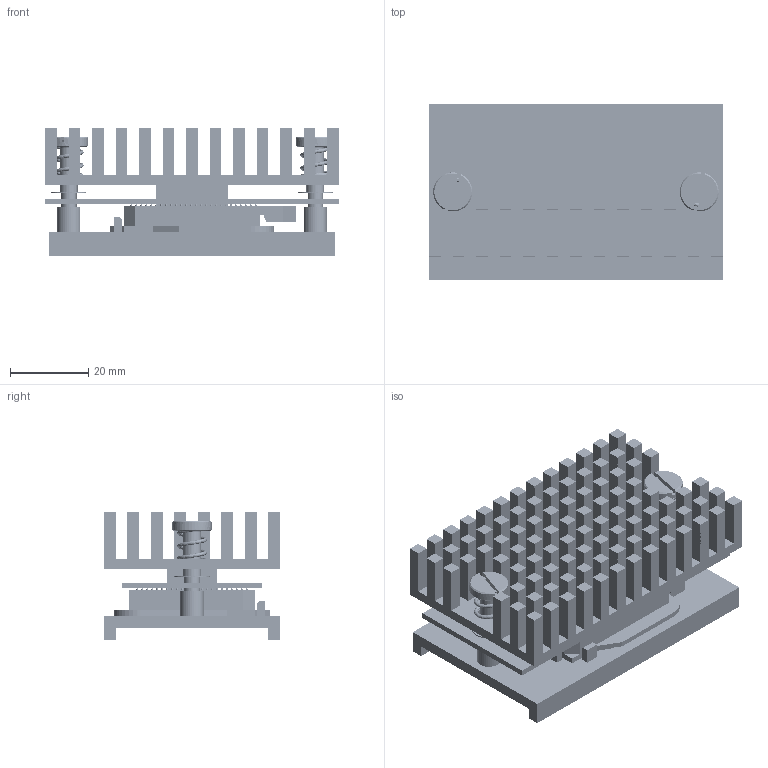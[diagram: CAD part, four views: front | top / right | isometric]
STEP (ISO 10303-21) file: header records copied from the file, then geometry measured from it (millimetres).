
FILE_DESCRIPTION (( 'STEP AP214' ), '1' );
FILE_NAME ('2511654.STEP', '2014-11-19T23:35:08', ( '' ), ( '' ), 'SwSTEP 2.0', 'SolidWorks 2013', '' );
FILE_SCHEMA (( 'AUTOMOTIVE_DESIGN' ));
Length unit declared in the file: millimetre
Products named in the file (16): LC038D01S (LEE SPRING); 2511633; 2511635; 2511634; 2511637; PCB-PadArray-s600; Series600-SYS-PCB-1; 2511569; s600-65-1080p-DMD_Ceramic; s600-65-1080p-Window; s600-65-1080p-Ceramic; 2511631; 2511654; 2511728; 2511727; 5105-15 (TRUARC)
Assembly tree (18 placements, depth 3):
  2511654
    2511631
    s600-65-1080p-DMD_Ceramic
      s600-65-1080p-Ceramic
      s600-65-1080p-Window
    2511569
    2511637
      Series600-SYS-PCB-1
      PCB-PadArray-s600
    2511634
    2511635
    2511633  x2
    LC038D01S (LEE SPRING)  x2
    5105-15 (TRUARC)  x2
    2511727
    2511728
Bounding box: 75 x 45 x 32.63 mm (x, y, z)
Volume: 42448.6 mm3; surface area: 48818.6 mm2
Topology: 366 solids, 366 shells, 7967 faces, 16470 edges, 9676 vertices
Faces by surface type: cylinder 2971, cone 2154, plane 2090, torus 728, bspline 24
Entity records: 230734 total; most frequent: DIRECTION 40104, CARTESIAN_POINT 36788, ORIENTED_EDGE 31118, AXIS2_PLACEMENT_3D 16697, EDGE_CURVE 15559, VERTEX_POINT 9541, EDGE_LOOP 9084, CIRCLE 8789
